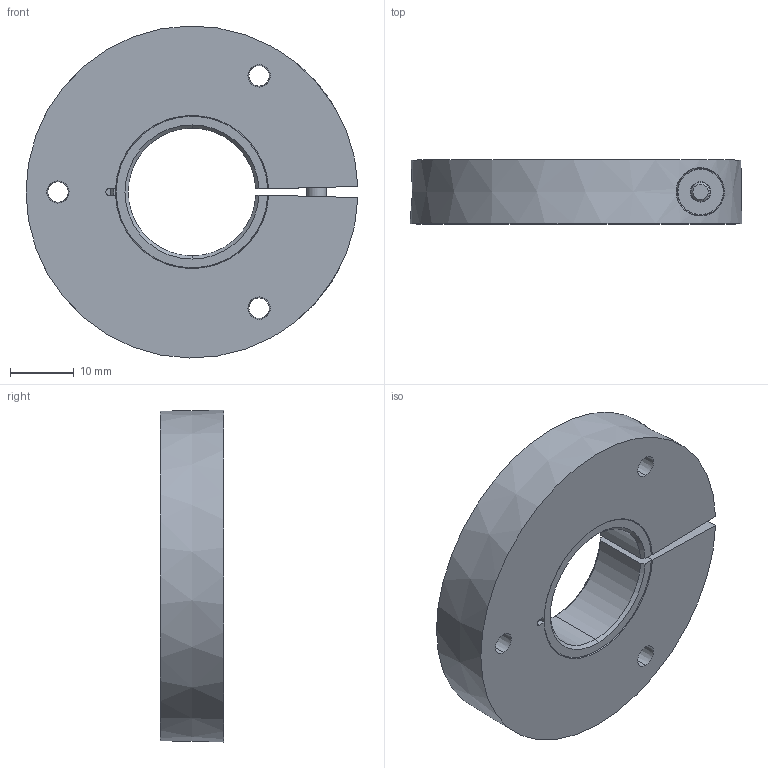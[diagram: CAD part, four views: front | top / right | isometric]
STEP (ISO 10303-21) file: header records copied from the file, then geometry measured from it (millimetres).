
FILE_DESCRIPTION (( 'STEP AP203' ), '1' );
FILE_NAME ('P1-RI-QR24-20mmDIA.step', '2015-01-26T21:34:25', ( 'Turck User' ), ( '' ), 'SwSTEP 2.0', 'SolidWorks 2014', '' );
FILE_SCHEMA (( 'CONFIG_CONTROL_DESIGN' ));
Length unit declared in the file: millimetre
Products named in the file (2): P1-RI-QR24-20mmDIA
Bounding box: 51.99 x 10 x 51.99 mm (x, y, z)
Volume: 16745.7 mm3; surface area: 8784.9 mm2
Topology: 2 solids, 2 shells, 94 faces, 227 edges, 143 vertices
Faces by surface type: cone 38, plane 31, cylinder 21, bspline 4
Entity records: 3065 total; most frequent: CARTESIAN_POINT 693, DIRECTION 478, ORIENTED_EDGE 454, EDGE_CURVE 227, AXIS2_PLACEMENT_3D 184, VERTEX_POINT 143, LINE 110, VECTOR 110
